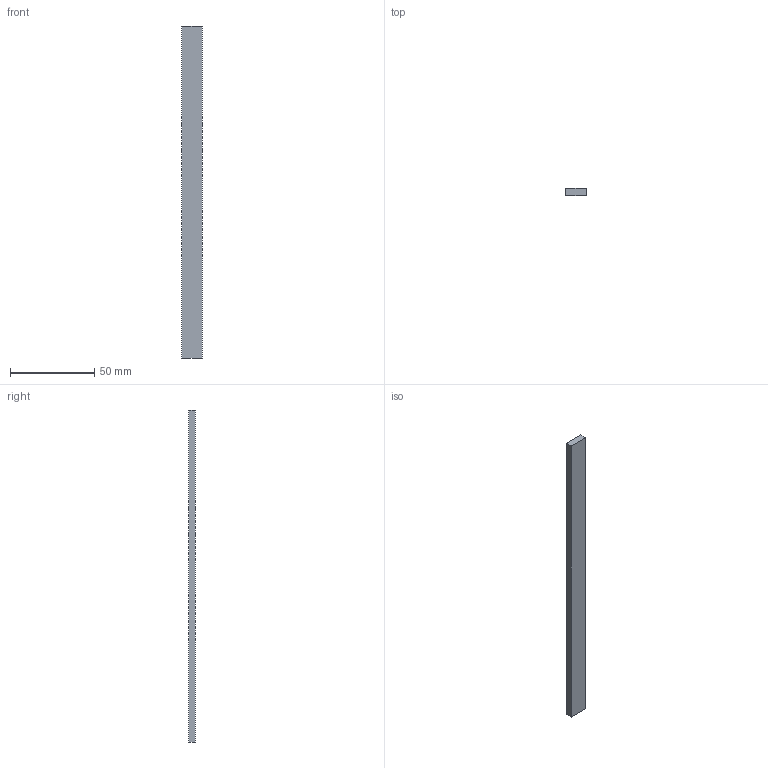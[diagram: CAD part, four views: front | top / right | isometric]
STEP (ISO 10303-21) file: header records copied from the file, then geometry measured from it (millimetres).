
FILE_DESCRIPTION(('FreeCAD Model'),'2;1');
FILE_NAME('Open CASCADE Shape Model','2026-11-06T11:24:15',('FreeCAD'),( 'FreeCAD'),'Open CASCADE STEP processor 7.8','FreeCAD','Unknown');
FILE_SCHEMA(('AUTOMOTIVE_DESIGN { 1 0 10303 214 1 1 1 1 }'));
Length unit declared in the file: millimetre
Products named in the file (1): Open CASCADE STEP translator 7.8 7
Bounding box: 12 x 4 x 197 mm (x, y, z)
Volume: 9456 mm3; surface area: 6400 mm2
Topology: 1 solids, 1 shells, 6 faces, 12 edges, 8 vertices
Faces by surface type: plane 6
Entity records: 166 total; most frequent: CARTESIAN_POINT 27, DIRECTION 26, ORIENTED_EDGE 24, EDGE_CURVE 12, LINE 12, VECTOR 12, VERTEX_POINT 8, AXIS2_PLACEMENT_3D 7
